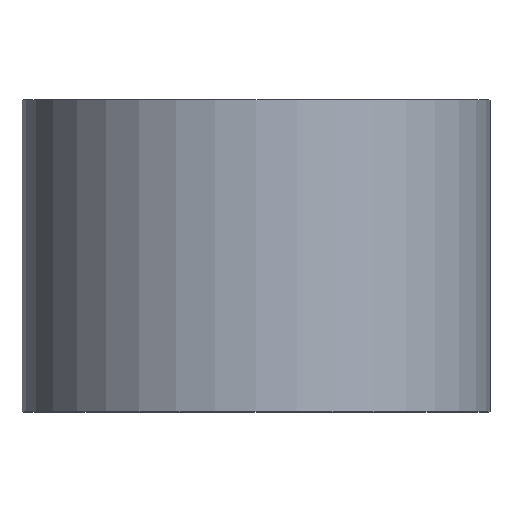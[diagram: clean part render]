
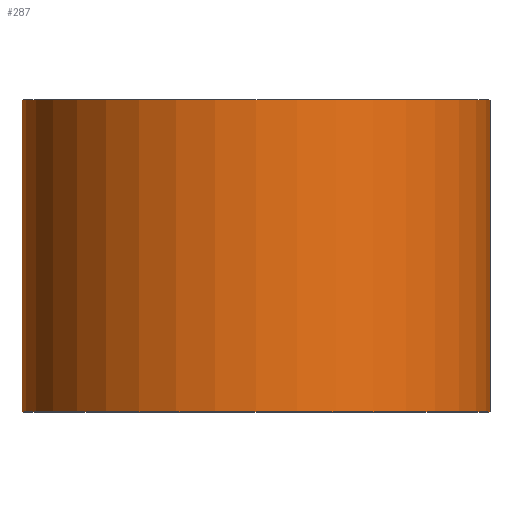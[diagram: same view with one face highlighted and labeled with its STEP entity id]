
A CAD part, top view. The second image highlights one B-rep face of the part: STEP entity #287.
In plain terms, the highlighted cylindrical face has radius 15 mm (diameter 30 mm), a partial arc.
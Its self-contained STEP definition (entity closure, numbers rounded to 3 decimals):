
#4 = DIRECTION ( 'NONE',  ( 0., 1., 0. ) ) ;
#8 = DIRECTION ( 'NONE',  ( -1., 0., 0. ) ) ;
#9 = DIRECTION ( 'NONE',  ( 0., 1., 0. ) ) ;
#13 = CARTESIAN_POINT ( 'NONE',  ( 0., 0., 0. ) ) ;
#15 = EDGE_CURVE ( 'NONE', #86, #249, #217, .T. ) ;
#21 = ORIENTED_EDGE ( 'NONE', *, *, #156, .T. ) ;
#27 = EDGE_CURVE ( 'NONE', #277, #288, #197, .T. ) ;
#33 = ORIENTED_EDGE ( 'NONE', *, *, #202, .F. ) ;
#34 = DIRECTION ( 'NONE',  ( 0., 1., 0. ) ) ;
#36 = CYLINDRICAL_SURFACE ( 'NONE', #297, 15. ) ;
#60 = AXIS2_PLACEMENT_3D ( 'NONE', #13, #211, #237 ) ;
#63 = CARTESIAN_POINT ( 'NONE',  ( 15., 20., 0. ) ) ;
#73 = AXIS2_PLACEMENT_3D ( 'NONE', #205, #9, #8 ) ;
#86 = VERTEX_POINT ( 'NONE', #233 ) ;
#95 = FACE_OUTER_BOUND ( 'NONE', #172, .T. ) ;
#126 = CARTESIAN_POINT ( 'NONE',  ( -15., 0., 0. ) ) ;
#130 = VECTOR ( 'NONE', #4, 1000. ) ;
#131 = ORIENTED_EDGE ( 'NONE', *, *, #27, .F. ) ;
#133 = DIRECTION ( 'NONE',  ( -1., 0., 0. ) ) ;
#134 = VECTOR ( 'NONE', #34, 1000. ) ;
#156 = EDGE_CURVE ( 'NONE', #249, #288, #253, .T. ) ;
#158 = CARTESIAN_POINT ( 'NONE',  ( 15., 0., 0. ) ) ;
#172 = EDGE_LOOP ( 'NONE', ( #269, #21, #131, #33 ) ) ;
#193 = CARTESIAN_POINT ( 'NONE',  ( 0., 0., 0. ) ) ;
#197 = CIRCLE ( 'NONE', #73, 15. ) ;
#202 = EDGE_CURVE ( 'NONE', #86, #277, #300, .T. ) ;
#205 = CARTESIAN_POINT ( 'NONE',  ( 0., 20., 0. ) ) ;
#211 = DIRECTION ( 'NONE',  ( 0., 1., 0. ) ) ;
#217 = CIRCLE ( 'NONE', #60, 15. ) ;
#232 = CARTESIAN_POINT ( 'NONE',  ( -15., 20., 0. ) ) ;
#233 = CARTESIAN_POINT ( 'NONE',  ( -15., 0., 0. ) ) ;
#237 = DIRECTION ( 'NONE',  ( -1., 0., 0. ) ) ;
#249 = VERTEX_POINT ( 'NONE', #285 ) ;
#253 = LINE ( 'NONE', #158, #134 ) ;
#267 = DIRECTION ( 'NONE',  ( 0., 1., 0. ) ) ;
#269 = ORIENTED_EDGE ( 'NONE', *, *, #15, .T. ) ;
#277 = VERTEX_POINT ( 'NONE', #232 ) ;
#285 = CARTESIAN_POINT ( 'NONE',  ( 15., 0., 0. ) ) ;
#287 = ADVANCED_FACE ( 'NONE', ( #95 ), #36, .T. ) ;
#288 = VERTEX_POINT ( 'NONE', #63 ) ;
#297 = AXIS2_PLACEMENT_3D ( 'NONE', #193, #267, #133 ) ;
#300 = LINE ( 'NONE', #126, #130 ) ;
